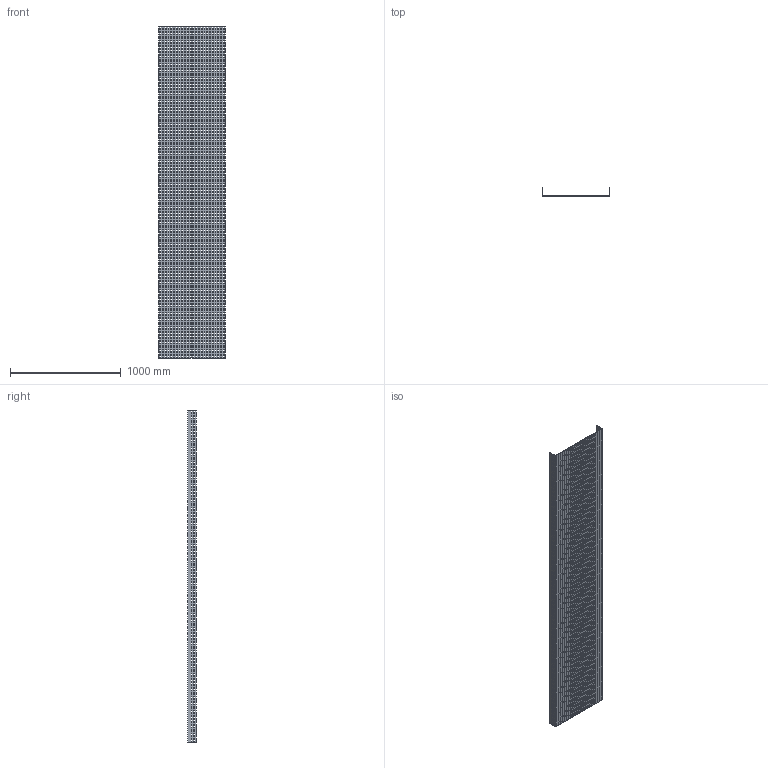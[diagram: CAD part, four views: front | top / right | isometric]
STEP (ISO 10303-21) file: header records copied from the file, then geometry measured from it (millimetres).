
FILE_DESCRIPTION (( 'STEP AP214' ), '1' );
FILE_NAME ('01F3C600.step', '2025-02-21T13:31:02', ( '' ), ( '' ), 'SwSTEP 2.0', 'SolidWorks 2023', '' );
FILE_SCHEMA (( 'AUTOMOTIVE_DESIGN' ));
Products named in the file (1): 01F3C600
Bounding box: 604 x 79 x 3000 mm (x, y, z)
Volume: 6692700 mm3; surface area: 4302269 mm2
Topology: 1 solids, 1 shells, 8074 faces, 24216 edges, 16144 vertices
Faces by surface type: plane 8074
Entity records: 274487 total; most frequent: CARTESIAN_POINT 48435, ORIENTED_EDGE 48432, DIRECTION 40366, LINE 24216, VECTOR 24216, EDGE_CURVE 24216, VERTEX_POINT 16144, EDGE_LOOP 12106
